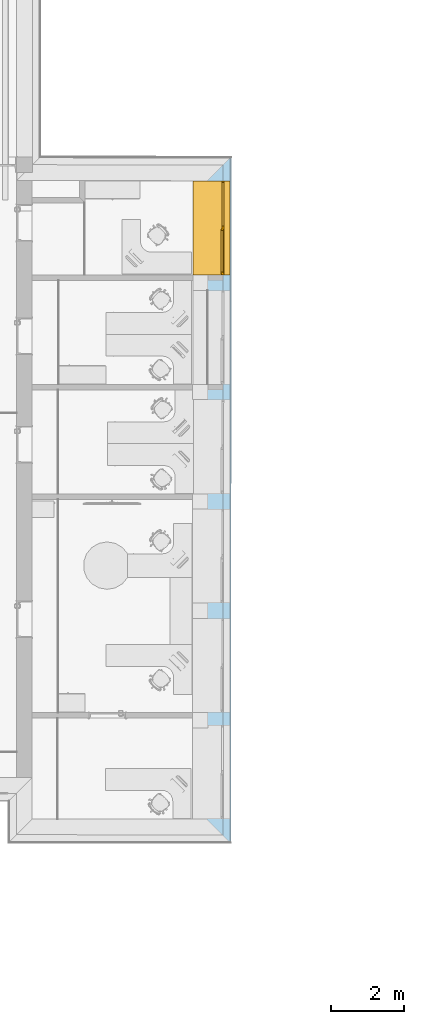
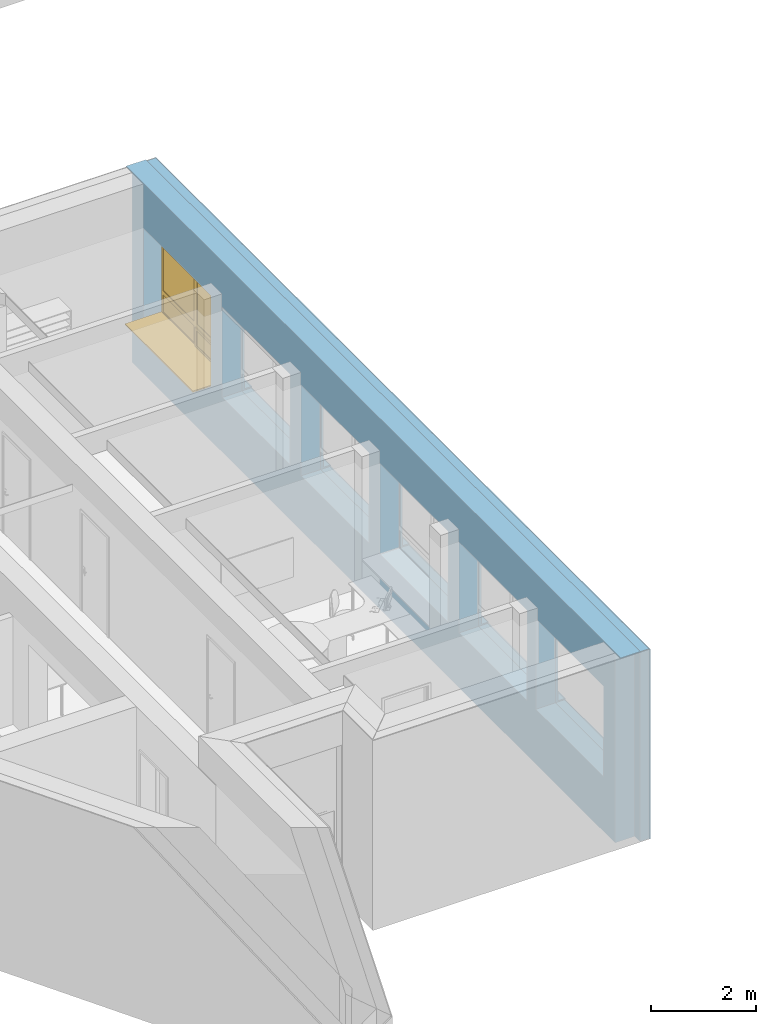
# One storey, part 81 of 194: 1 window, 6 openings, 1 element without a shape of its own, plus 3 elements that do not belong to this part.
"""IFC2X3 building model written with IfcOpenShell, lengths in millimetres."""

from ifc_helpers import new_model, entity, si_unit, converted_unit, derived_unit, money_unit, direction, frame, origin_with_axes, origin_2d_with_axis, place, context, subcontext, project, spatial, polyline, rectangle, outline, extrude, boolean, open_shell, faceted_brep, surface_model, material, type_object, element, fill, aggregate, save


model = new_model("IFC2X3")

# Units and contexts
model_context = context("Model", 3, precision=1e-05, world=origin_with_axes(), true_north=direction((0.0, 1.0)))
body_context = subcontext(model_context, "Body", "Model", "MODEL_VIEW")
ifc_project = project(units=[si_unit("LENGTHUNIT", "METRE", prefix="MILLI"), si_unit("AREAUNIT", "SQUARE_METRE"), si_unit("VOLUMEUNIT", "CUBIC_METRE"), converted_unit("PLANEANGLEUNIT", "DEGREE", entity("IfcPlaneAngleMeasure", 0.0174532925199), si_unit("PLANEANGLEUNIT", "RADIAN"), dimensions=[0, 0, 0, 0, 0, 0, 0]), si_unit("SOLIDANGLEUNIT", "STERADIAN"), money_unit("EUR"), converted_unit("TIMEUNIT", "Year", entity("IfcTimeMeasure", 31556926.0), si_unit("TIMEUNIT", "SECOND"), dimensions=[0, 0, 1, 0, 0, 0, 0]), si_unit("MASSUNIT", "GRAM", prefix="KILO"), si_unit("THERMODYNAMICTEMPERATUREUNIT", "DEGREE_CELSIUS"), si_unit("LUMINOUSINTENSITYUNIT", "LUMEN"), si_unit("ENERGYUNIT", "JOULE", prefix="MEGA"), derived_unit("THERMALCONDUCTANCEUNIT", [(si_unit("POWERUNIT", "WATT"), 1), (si_unit("LENGTHUNIT", "METRE"), -1), (si_unit("THERMODYNAMICTEMPERATUREUNIT", "KELVIN"), -1)]), derived_unit("SPECIFICHEATCAPACITYUNIT", [(si_unit("ENERGYUNIT", "JOULE"), 1), (si_unit("MASSUNIT", "GRAM", prefix="KILO"), -1), (si_unit("THERMODYNAMICTEMPERATUREUNIT", "KELVIN"), -1)]), derived_unit("MASSDENSITYUNIT", [(si_unit("MASSUNIT", "GRAM", prefix="KILO"), 1), (si_unit("VOLUMEUNIT", "CUBIC_METRE"), -1)])], contexts=[model_context])

# Site, building, storey
site_placement = place(None, origin_with_axes())
site = spatial("IfcSite", under=ifc_project, at=site_placement, Name="Site", CompositionType="ELEMENT")
building_placement = place(site_placement, origin_with_axes())
building = spatial("IfcBuilding", under=site, at=building_placement, Name="Building", CompositionType="ELEMENT")
storey_placement = place(building_placement, frame((0.0, 0.0, 3000.0), z_axis=(0.0, 0.0, 1.0), x_axis=(1.0, 0.0, 0.0)))
storey = spatial("IfcBuildingStorey", under=building, at=storey_placement, Name="2 KORRUS", CompositionType="ELEMENT", Elevation=3000.0)

# Window
window_style = type_object("IfcWindowStyle", Name="A2   2\xa0580×2\xa0100", ConstructionType="NOTDEFINED", OperationType="USERDEFINED", ParameterTakesPrecedence=False, Sizeable=False)
wall_placement = place(storey_placement, frame((45388.6906963, 4389.96789684, -420.0), z_axis=(0.0, 0.0, 1.0), x_axis=(0.000555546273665, 0.999999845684, 0.0)))
opening_5_placement = place(wall_placement, frame((16639.9800092, 0.0, 1270.0), z_axis=(0.0, 0.0, 1.0), x_axis=(1.0, 0.0, 0.0)))
window_placement = place(opening_5_placement, frame((-1290.0, 0.0, 0.0), z_axis=(0.0, 0.0, 1.0), x_axis=(1.0, 0.0, 0.0)))
window = element("IfcWindow", 1, at=window_placement, inside=storey, type_object=window_style, Name="välisaken * Double Window 22", OverallHeight=2100.0, OverallWidth=2580.0, context=body_context, shape_type="SurfaceModel", body=[
    faceted_brep([(0.0, -20.0, 30.0), (0.0, -20.0, 5.0), (0.0, -220.0, 5.0), (0.0, -220.0, 19.5184441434), (2580.0, -20.0000000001, 30.0), (2580.0, -20.0000000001, 5.0), (2580.0, -220.0, 5.0), (2580.0, -220.0, 19.5184441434)], [[[0, 1, 2, 3]], [[4, 5, 1, 0]], [[2, 1, 5, 6]], [[3, 2, 6, 7]], [[4, 0, 3, 7]], [[7, 6, 5, 4]]]),
    faceted_brep([(0.0, -20.0, 0.0), (0.0, -220.0, 0.0), (0.0, -220.0, 5.0), (0.0, -20.0, 5.0), (2580.0, -20.0000000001, 0.0), (2580.0, -220.0, 0.0), (2580.0, -220.0, 5.0), (2580.0, -20.0000000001, 5.0)], [[[0, 1, 2, 3]], [[0, 4, 5, 1]], [[1, 5, 6, 2]], [[3, 2, 6, 7]], [[4, 0, 3, 7]], [[5, 4, 7, 6]]]),
    faceted_brep([(2580.0, 29.9999999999, 0.0), (2580.0, 430.0, 0.0), (2580.0, 430.0, 30.0), (2580.0, 29.9999999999, 30.0), (0.0, 30.0, 0.0), (0.0, 430.0, 0.0), (-9.09494701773e-10, 830.0, 0.0), (2580.0, 830.0, 0.0), (2580.0, 830.0, 30.0), (-9.09494701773e-10, 830.0, 30.0), (0.0, 430.0, 30.0), (0.0, 30.0, 30.0)], [[[0, 1, 2, 3]], [[0, 4, 5, 6, 7, 1]], [[1, 7, 8, 2]], [[3, 2, 8, 9, 10, 11]], [[4, 0, 3, 11]], [[5, 4, 11, 10]], [[6, 5, 10, 9]], [[7, 6, 9, 8]]]),
    faceted_brep([(25.0000000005, 30.0, 50.0), (0.0, 30.0, 50.0), (0.0, 30.0, 2050.0), (49.9999999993, 30.0, 2050.0), (49.9999999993, 30.0, 550.0), (49.9999999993, 30.0, 475.0), (25.0000000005, 30.0, 475.0), (24.9999999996, 4.99999999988, 50.0), (49.9999999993, 5.0, 50.0), (50.0000000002, -20.0000000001, 50.0), (0.0, -20.0, 50.0), (0.0, -20.0, 2050.0), (50.0000000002, -20.0000000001, 2050.0), (50.0000000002, -20.0000000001, 550.0), (49.9999999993, 5.0, 475.0), (50.0000000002, -20.0000000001, 450.0), (49.9999999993, 5.0, 450.0), (24.9999999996, 4.99999999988, 475.0)], [[[0, 1, 2, 3, 4, 5, 6]], [[7, 8, 9, 10, 1, 0]], [[2, 1, 10, 11]], [[3, 2, 11, 12]], [[4, 3, 12, 13]], [[14, 5, 4, 13, 15, 16]], [[14, 17, 6, 5]], [[6, 17, 7, 0]], [[16, 8, 7, 17, 14]], [[16, 15, 9, 8]], [[13, 12, 11, 10, 9, 15]]]),
    faceted_brep([(1265.0, 30.0, 475.0), (1240.0, 30.0, 475.0), (1240.0, 30.0, 550.0), (1240.0, 30.0, 2050.0), (1340.0, 29.9999999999, 2050.0), (1340.0, 29.9999999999, 550.0), (1340.0, 29.9999999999, 450.0), (1340.0, 29.9999999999, 50.0), (1265.0, 30.0, 50.0), (1265.0, 5.0, 475.0), (1240.0, 4.99999999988, 475.0), (1240.0, 4.99999999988, 450.0), (1240.0, -20.0000000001, 450.0), (1240.0, -20.0000000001, 550.0), (1240.0, -20.0000000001, 2050.0), (1340.0, -20.0000000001, 2050.0), (1340.0, -20.0000000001, 550.0), (1340.0, -20.0000000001, 450.0), (1340.0, -20.0000000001, 50.0), (1265.0, 5.0, 50.0), (1240.0, -20.0000000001, 50.0), (1240.0, 4.99999999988, 50.0)], [[[0, 1, 2, 3, 4, 5, 6, 7, 8]], [[0, 9, 10, 1]], [[10, 11, 12, 13, 2, 1]], [[3, 2, 13, 14]], [[4, 3, 14, 15]], [[5, 4, 15, 16]], [[6, 5, 16, 17]], [[7, 6, 17, 18]], [[19, 8, 7, 18, 20, 21]], [[8, 19, 9, 0]], [[21, 11, 10, 9, 19]], [[21, 20, 12, 11]], [[12, 20, 18, 17, 16, 15, 14, 13]]]),
    faceted_brep([(49.9999999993, 30.0, 475.0), (49.9999999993, 30.0, 550.0), (1240.0, 30.0, 550.0), (1240.0, 30.0, 475.0), (49.9999999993, 5.0, 475.0), (49.9999999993, 5.0, 450.0), (50.0000000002, -20.0000000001, 450.0), (50.0000000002, -20.0000000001, 550.0), (1240.0, -20.0000000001, 550.0), (1240.0, 4.99999999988, 475.0), (1240.0, -20.0000000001, 450.0), (1240.0, 4.99999999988, 450.0)], [[[0, 1, 2, 3]], [[4, 5, 6, 7, 1, 0]], [[2, 1, 7, 8]], [[9, 3, 2, 8, 10, 11]], [[9, 4, 0, 3]], [[11, 5, 4, 9]], [[11, 10, 6, 5]], [[8, 7, 6, 10]]]),
    faceted_brep([(1240.0, 4.99999999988, 50.0), (1240.0, -20.0000000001, 50.0), (1340.0, -20.0000000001, 50.0), (1340.0, 29.9999999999, 50.0), (1265.0, 30.0, 50.0), (1265.0, 5.0, 50.0), (49.9999999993, 5.0, 50.0), (50.0000000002, -20.0000000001, 50.0), (0.0, -20.0, 50.0), (0.0, -20.0, 0.0), (2580.0, -20.0000000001, 0.0), (2580.0, -20.0000000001, 50.0), (2530.0, -20.0000000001, 50.0), (2530.0, 30.0, 50.0), (25.0000000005, 30.0, 25.0), (1265.0, 30.0, 25.0), (2580.0, 29.9999999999, 50.0), (2580.0, 29.9999999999, 0.0), (0.0, 30.0, 0.0), (0.0, 30.0, 50.0), (25.0000000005, 30.0, 50.0), (1265.0, 5.0, 25.0), (24.9999999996, 4.99999999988, 25.0), (24.9999999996, 4.99999999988, 50.0)], [[[0, 1, 2, 3, 4, 5]], [[6, 7, 1, 0]], [[8, 9, 10, 11, 12, 2, 1, 7]], [[13, 3, 2, 12]], [[14, 15, 4, 3, 13, 16, 17, 18, 19, 20]], [[15, 21, 5, 4]], [[5, 21, 22, 23, 6, 0]], [[23, 20, 19, 8, 7, 6]], [[19, 18, 9, 8]], [[18, 17, 10, 9]], [[17, 16, 11, 10]], [[16, 13, 12, 11]], [[14, 22, 21, 15]], [[23, 22, 14, 20]]]),
    faceted_brep([(2530.0, -20.0000000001, 50.0), (2530.0, 30.0, 50.0), (2580.0, 29.9999999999, 50.0), (2580.0, -20.0000000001, 50.0), (2530.0, -20.0000000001, 450.0), (2530.0, 30.0, 450.0), (2530.0, 30.0, 550.0), (2530.0, 30.0, 2050.0), (2580.0, 29.9999999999, 2050.0), (2580.0, -20.0000000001, 2050.0), (2530.0, -20.0000000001, 2050.0), (2530.0, -20.0000000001, 550.0)], [[[0, 1, 2, 3]], [[4, 5, 1, 0]], [[1, 5, 6, 7, 8, 2]], [[3, 2, 8, 9]], [[0, 3, 9, 10, 11, 4]], [[11, 6, 5, 4]], [[10, 7, 6, 11]], [[9, 8, 7, 10]]]),
    faceted_brep([(1340.0, -20.0000000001, 550.0), (1340.0, 29.9999999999, 550.0), (1340.0, 29.9999999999, 450.0), (1340.0, -20.0000000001, 450.0), (2530.0, -20.0000000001, 550.0), (2530.0, 30.0, 550.0), (2530.0, 30.0, 450.0), (2530.0, -20.0000000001, 450.0)], [[[0, 1, 2, 3]], [[4, 5, 1, 0]], [[1, 5, 6, 2]], [[3, 2, 6, 7]], [[0, 3, 7, 4]], [[7, 6, 5, 4]]]),
    faceted_brep([(1240.0, -20.0000000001, 2050.0), (1240.0, 30.0, 2050.0), (1340.0, 29.9999999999, 2050.0), (1340.0, -20.0000000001, 2050.0), (50.0000000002, -20.0000000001, 2050.0), (49.9999999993, 30.0, 2050.0), (0.0, 30.0, 2050.0), (0.0, 30.0, 2100.0), (2580.0, 29.9999999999, 2100.0), (2580.0, 29.9999999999, 2050.0), (2530.0, 30.0, 2050.0), (2530.0, -20.0000000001, 2050.0), (2580.0, -20.0000000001, 2050.0), (2580.0, -20.0000000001, 2100.0), (0.0, -20.0, 2100.0), (0.0, -20.0, 2050.0)], [[[0, 1, 2, 3]], [[4, 5, 1, 0]], [[1, 5, 6, 7, 8, 9, 10, 2]], [[3, 2, 10, 11]], [[0, 3, 11, 12, 13, 14, 15, 4]], [[15, 6, 5, 4]], [[14, 7, 6, 15]], [[13, 8, 7, 14]], [[12, 9, 8, 13]], [[11, 10, 9, 12]]]),
    surface_model("IfcShellBasedSurfaceModel", [(50.0000000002, -5.0, 550.0), (1240.0, -5.00000000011, 550.0), (1240.0, -5.00000000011, 2050.0), (50.0000000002, -5.0, 2050.0)], [open_shell([[[0, 1, 2, 3]]])]),
    surface_model("IfcShellBasedSurfaceModel", [(49.9999999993, 14.9999999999, 550.0), (49.9999999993, 14.9999999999, 2050.0), (1240.0, 14.9999999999, 2050.0), (1240.0, 14.9999999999, 550.0)], [open_shell([[[0, 1, 2, 3]]])]),
    surface_model("IfcShellBasedSurfaceModel", [(1340.0, -5.00000000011, 550.0), (2530.0, -5.00000000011, 550.0), (2530.0, -5.00000000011, 2050.0), (1340.0, -5.00000000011, 2050.0)], [open_shell([[[0, 1, 2, 3]]])]),
    surface_model("IfcShellBasedSurfaceModel", [(1340.0, 14.9999999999, 550.0), (1340.0, 14.9999999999, 2050.0), (2530.0, 14.9999999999, 2050.0), (2530.0, 14.9999999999, 550.0)], [open_shell([[[0, 1, 2, 3]]])]),
    faceted_brep([(74.9999999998, 4.99999999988, 425.0), (74.9999999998, 54.9999999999, 425.0), (24.9999999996, 54.9999999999, 425.0), (24.9999999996, 4.99999999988, 425.0), (74.9999999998, 4.99999999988, 75.0), (74.9999999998, 54.9999999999, 75.0), (24.9999999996, 54.9999999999, 75.0), (24.9999999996, 4.99999999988, 75.0)], [[[0, 1, 2, 3]], [[4, 5, 1, 0]], [[1, 5, 6, 2]], [[3, 2, 6, 7]], [[0, 3, 7, 4]], [[7, 6, 5, 4]]]),
    faceted_brep([(1215.0, 4.99999999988, 75.0), (1215.0, 54.9999999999, 75.0), (1265.0, 54.9999999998, 75.0), (1265.0, 5.0, 75.0), (1215.0, 4.99999999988, 425.0), (1215.0, 54.9999999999, 425.0), (1265.0, 54.9999999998, 425.0), (1265.0, 5.0, 425.0)], [[[0, 1, 2, 3]], [[4, 5, 1, 0]], [[1, 5, 6, 2]], [[3, 2, 6, 7]], [[0, 3, 7, 4]], [[7, 6, 5, 4]]]),
    faceted_brep([(1265.0, 5.0, 25.0), (1265.0, 54.9999999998, 25.0), (1265.0, 54.9999999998, 75.0), (1265.0, 5.0, 75.0), (24.9999999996, 4.99999999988, 25.0), (24.9999999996, 54.9999999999, 25.0), (24.9999999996, 54.9999999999, 75.0), (74.9999999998, 54.9999999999, 75.0), (1215.0, 54.9999999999, 75.0), (1215.0, 4.99999999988, 75.0), (74.9999999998, 4.99999999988, 75.0), (24.9999999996, 4.99999999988, 75.0)], [[[0, 1, 2, 3]], [[4, 5, 1, 0]], [[1, 5, 6, 7, 8, 2]], [[3, 2, 8, 9]], [[0, 3, 9, 10, 11, 4]], [[11, 6, 5, 4]], [[10, 7, 6, 11]], [[9, 8, 7, 10]]]),
    faceted_brep([(24.9999999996, 4.99999999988, 475.0), (24.9999999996, 54.9999999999, 475.0), (24.9999999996, 54.9999999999, 425.0), (24.9999999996, 4.99999999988, 425.0), (1265.0, 5.0, 475.0), (1265.0, 54.9999999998, 475.0), (1265.0, 54.9999999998, 425.0), (1215.0, 54.9999999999, 425.0), (74.9999999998, 54.9999999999, 425.0), (74.9999999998, 4.99999999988, 425.0), (1215.0, 4.99999999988, 425.0), (1265.0, 5.0, 425.0)], [[[0, 1, 2, 3]], [[4, 5, 1, 0]], [[1, 5, 6, 7, 8, 2]], [[3, 2, 8, 9]], [[0, 3, 9, 10, 11, 4]], [[11, 6, 5, 4]], [[10, 7, 6, 11]], [[9, 8, 7, 10]]]),
    surface_model("IfcShellBasedSurfaceModel", [(74.9999999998, 20.0, 75.0), (1215.0, 20.0, 75.0), (1215.0, 20.0, 425.0), (74.9999999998, 20.0, 425.0)], [open_shell([[[0, 1, 2, 3]]])]),
    surface_model("IfcShellBasedSurfaceModel", [(74.9999999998, 40.0, 75.0), (74.9999999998, 40.0, 425.0), (1215.0, 40.0, 425.0), (1215.0, 40.0, 75.0)], [open_shell([[[0, 1, 2, 3]]])]),
    surface_model("IfcShellBasedSurfaceModel", [(1340.0, -5.00000000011, 50.0), (2530.0, -5.00000000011, 50.0), (2530.0, -5.00000000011, 450.0), (1340.0, -5.00000000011, 450.0)], [open_shell([[[0, 1, 2, 3]]])]),
    surface_model("IfcShellBasedSurfaceModel", [(1340.0, 14.9999999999, 50.0), (1340.0, 14.9999999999, 450.0), (2530.0, 14.9999999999, 450.0), (2530.0, 14.9999999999, 50.0)], [open_shell([[[0, 1, 2, 3]]])]),
])

# Wall, openings
wall_type = type_object("IfcWallType", Name="VS4", PredefinedType="NOTDEFINED")
wall = element("IfcWall", 2, at=wall_placement, inside=storey, type_object=wall_type, Name="VS4")
opening_1_placement = place(wall_placement, frame((1719.99240846, 0.0, 1270.0), z_axis=(0.0, 0.0, 1.0), x_axis=(1.0, 0.0, 0.0)))
element("IfcOpeningElement", 3, at=opening_1_placement, cuts=wall, Name="välisaken * Double Window 22", context=body_context, shape_type="SweptSolid", body=[
    extrude(rectangle(XDim=2580.0, YDim=2100.0, at=origin_2d_with_axis()), frame((9.09494701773e-10, -20.0, 1050.0), z_axis=(0.0, -1.0, 0.0), x_axis=(1.0, 0.0, 0.0)), (0.0, 0.0, -1.0), 1100.0),
    extrude(rectangle(XDim=2580.0, YDim=2100.0, at=origin_2d_with_axis()), frame((9.09494701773e-10, -20.0000000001, 1050.0), z_axis=(0.0, 1.0, 0.0), x_axis=(1.0, 0.0, 0.0)), (0.0, 0.0, -1.0), 850.0),
])
opening_2_placement = place(wall_placement, frame((7639.96095485, 0.0, 1270.0), z_axis=(0.0, 0.0, 1.0), x_axis=(1.0, 0.0, 0.0)))
element("IfcOpeningElement", 4, at=opening_2_placement, cuts=wall, Name="välisaken * Double Window 22", context=body_context, shape_type="SweptSolid", body=[
    extrude(rectangle(XDim=2580.0, YDim=2100.0, at=origin_2d_with_axis()), frame((9.09494701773e-10, -19.9999999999, 1050.0), z_axis=(0.0, -1.0, 0.0), x_axis=(1.0, 0.0, 0.0)), (0.0, 0.0, -1.0), 1100.0),
    extrude(rectangle(XDim=2580.0, YDim=2100.0, at=origin_2d_with_axis()), frame((9.09494701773e-10, -20.0, 1050.0), z_axis=(0.0, 1.0, 0.0), x_axis=(1.0, 0.0, 0.0)), (0.0, 0.0, -1.0), 850.0),
])
opening_3_placement = place(wall_placement, frame((10639.9002006, -1.13686837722e-10, 1270.0), z_axis=(0.0, 0.0, 1.0), x_axis=(1.0, 0.0, 0.0)))
element("IfcOpeningElement", 5, at=opening_3_placement, cuts=wall, Name="välisaken * Double Window 22", context=body_context, shape_type="SweptSolid", body=[
    extrude(rectangle(XDim=2580.0, YDim=2100.0, at=origin_2d_with_axis()), frame((9.09494701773e-10, -19.9999999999, 1050.0), z_axis=(0.0, -1.0, 0.0), x_axis=(1.0, 0.0, 0.0)), (0.0, 0.0, -1.0), 1100.0),
    extrude(rectangle(XDim=2580.0, YDim=2100.0, at=origin_2d_with_axis()), frame((0.0, -20.0, 1050.0), z_axis=(0.0, 1.0, 0.0), x_axis=(1.0, 0.0, 0.0)), (0.0, 0.0, -1.0), 850.0),
])
opening_4_placement = place(wall_placement, frame((13639.8047206, -1.13686837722e-10, 1270.0), z_axis=(0.0, 0.0, 1.0), x_axis=(1.0, 0.0, 0.0)))
element("IfcOpeningElement", 6, at=opening_4_placement, cuts=wall, Name="välisaken * Double Window 22", context=body_context, shape_type="SweptSolid", body=[
    extrude(rectangle(XDim=2580.0, YDim=2100.0, at=origin_2d_with_axis()), frame((9.09494701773e-10, -19.9999999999, 1050.0), z_axis=(0.0, -1.0, 0.0), x_axis=(1.0, 0.0, 0.0)), (0.0, 0.0, -1.0), 1100.0),
    extrude(rectangle(XDim=2580.0, YDim=2100.0, at=origin_2d_with_axis()), frame((1.81898940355e-09, -20.0, 1050.0), z_axis=(0.0, 1.0, 0.0), x_axis=(1.0, 0.0, 0.0)), (0.0, 0.0, -1.0), 850.0),
])
opening_5 = element("IfcOpeningElement", 7, at=opening_5_placement, cuts=wall, Name="välisaken * Double Window 22", context=body_context, shape_type="SweptSolid", body=[
    extrude(rectangle(XDim=2580.0, YDim=2100.0, at=origin_2d_with_axis()), frame((0.0, -20.0000000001, 1050.0), z_axis=(0.0, -1.0, 0.0), x_axis=(1.0, 0.0, 0.0)), (0.0, 0.0, -1.0), 1100.0),
    extrude(rectangle(XDim=2580.0, YDim=2100.0, at=origin_2d_with_axis()), frame((0.0, -20.0000000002, 1050.0), z_axis=(0.0, 1.0, 0.0), x_axis=(1.0, 0.0, 0.0)), (0.0, 0.0, -1.0), 850.0),
])

fill(opening_5, window)

# Opening
opening_6_placement = place(wall_placement, frame((4639.9161327, 0.0, 1270.0), z_axis=(0.0, 0.0, 1.0), x_axis=(1.0, 0.0, 0.0)))
element("IfcOpeningElement", 8, at=opening_6_placement, cuts=wall, Name="välisaken * Double Window 22", context=body_context, shape_type="SweptSolid", body=[
    extrude(rectangle(XDim=2580.0, YDim=2100.0, at=origin_2d_with_axis()), frame((9.09494701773e-10, -20.0, 1050.0), z_axis=(0.0, -1.0, 0.0), x_axis=(1.0, 0.0, 0.0)), (0.0, 0.0, -1.0), 1100.0),
    extrude(rectangle(XDim=2580.0, YDim=2100.0, at=origin_2d_with_axis()), frame((9.09494701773e-10, -20.0000000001, 1050.0), z_axis=(0.0, 1.0, 0.0), x_axis=(1.0, 0.0, 0.0)), (0.0, 0.0, -1.0), 850.0),
])

# Building element part
ifc_material_1 = material(Name="Tellis - Konstuktsioon")
building_element_part_1_placement = place(wall_placement, origin_with_axes())
building_element_part_1 = element("IfcBuildingElementPart", 9, at=building_element_part_1_placement, material=ifc_material_1, Name="Tellis - Konstuktsioon", context=body_context, shape_type="CSG", body=[
    boolean("DIFFERENCE", boolean("DIFFERENCE", boolean("DIFFERENCE", boolean("DIFFERENCE", boolean("DIFFERENCE", boolean("DIFFERENCE", extrude(outline(polyline([(-220.007591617, 0.0), (18579.9522338, 0.0), (18579.9522338, 430.0), (-220.007591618, 430.0), (-220.007591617, 0.0)])), origin_with_axes(), (0.0, 0.0, 1.0), 4420.0), faceted_brep([(0.0, 0.0, 4400.0), (-220.000000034, -1.13686837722e-10, 4400.0), (-220.007591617, 0.0, 0.0), (0.0, 1.13686837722e-10, 0.0), (-0.00759158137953, 430.0, 4400.0), (-220.007591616, 430.0, 4400.0), (-220.007591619, 430.0, 0.0), (-0.00759158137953, 430.0, 0.0)], [[[0, 1, 2, 3]], [[1, 0, 4, 5]], [[1, 5, 6, 2]], [[7, 3, 2, 6]], [[0, 3, 7, 4]], [[4, 7, 6, 5]]])), faceted_brep([(18579.9522338, 430.0, 4420.0), (18579.0005259, 0.0, 4420.0), (18579.9522338, 0.0, 4420.0), (18579.0005263, -9.09494701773e-10, 4400.0), (18579.9522348, 429.999999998, 4400.0), (18358.9999871, -2.27373675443e-10, 4400.0), (18358.9999871, -1.13686837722e-10, 0.0), (18579.9522338, 0.0, 0.0), (18579.9522338, 430.0, 0.0), (18359.951695, 430.0, 4400.0), (18359.951695, 430.0, 0.0)], [[[0, 1, 2]], [[3, 1, 0, 4]], [[5, 6, 7, 2, 1, 3]], [[4, 0, 2, 7, 8]], [[5, 3, 4, 9]], [[6, 5, 9, 10]], [[6, 10, 8, 7]], [[9, 4, 8, 10]]])), faceted_brep([(0.111082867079, -200.0, 1300.0), (18196.9295608, -200.0, 1300.0), (18196.9295608, -200.0, 3400.0), (0.111082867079, -200.0, 3400.0), (0.0345998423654, -62.3282756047, 1300.0), (18196.8474617, -52.2191024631, 1300.0), (18196.8474617, -52.2191024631, 3400.0), (0.0345998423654, -62.3282756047, 3400.0)], [[[0, 1, 2, 3]], [[1, 0, 4, 5]], [[2, 1, 5, 6]], [[3, 2, 6, 7]], [[0, 3, 7, 4]], [[5, 4, 7, 6]]])), faceted_brep([(-199.996469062, -200.0, 0.0), (-199.996469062, -200.0, 4400.0), (18558.5578221, -200.0, 4400.0), (18558.5578221, -200.0, 0.0), (18579.9522338, -200.0, 0.0), (18579.9522338, -200.0, 4420.0), (-220.007591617, -200.0, 4420.0), (-220.007591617, -200.0, 0.0), (-200.000000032, 0.0, 0.0), (-200.000000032, -1.13686837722e-10, 4400.0), (18358.9999871, -2.27373675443e-10, 4400.0), (18559.0004769, 0.0, 4400.0), (18559.0004769, 0.0, 0.0), (18579.9522338, 0.0, 0.0), (18579.9522338, 0.0, 4420.0), (-220.007591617, 0.0, 4420.0), (-220.007591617, 0.0, 0.0)], [[[0, 1, 2, 3, 4, 5, 6, 7]], [[1, 0, 8, 9]], [[10, 11, 2, 1, 9]], [[3, 2, 11, 12]], [[3, 12, 13, 4]], [[5, 4, 13, 14]], [[15, 6, 5, 14]], [[15, 16, 7, 6]], [[8, 0, 7, 16]], [[9, 8, 16, 15, 14, 13, 12, 11, 10]]])), faceted_brep([(0.111082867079, -200.0, 1300.0), (0.111082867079, -200.0, 3400.0), (18196.9295608, -200.0, 3400.0), (18196.9295608, -200.0, 1300.0), (0.122193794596, -220.0, 1300.0), (0.122193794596, -220.0, 3400.0), (18196.9406717, -220.0, 3400.0), (18196.9406717, -220.0, 1300.0)], [[[0, 1, 2, 3]], [[4, 5, 1, 0]], [[5, 6, 2, 1]], [[6, 7, 3, 2]], [[7, 4, 0, 3]], [[4, 7, 6, 5]]])), faceted_brep([(-219.996115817, -220.0, 4400.0), (18558.5135566, -220.0, 4400.0), (18578.5136056, -220.0, 4400.0), (18578.5136056, -220.0, 0.0), (18579.9522338, -220.0, 0.0), (18579.9522338, -220.0, 4420.0), (-220.007591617, -220.0, 4420.0), (-220.007591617, -220.0, 0.0), (-219.996115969, -220.0, 0.0), (-219.996468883, -200.0, 4400.0), (18558.5578221, -200.0, 4400.0), (18578.5578711, -200.0, 4400.0), (18578.5578711, -200.0, 0.0), (18579.9522338, -200.0, 0.0), (18579.9522338, -200.0, 4420.0), (-220.007591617, -200.0, 4420.0), (-220.007591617, -200.0, 0.0), (-219.996469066, -200.0, 0.0)], [[[0, 1, 2, 3, 4, 5, 6, 7, 8]], [[2, 1, 0, 9, 10, 11]], [[3, 2, 11, 12]], [[3, 12, 13, 4]], [[5, 4, 13, 14]], [[15, 6, 5, 14]], [[15, 16, 7, 6]], [[17, 8, 7, 16]], [[0, 8, 17, 9]], [[9, 17, 16, 15, 14, 13, 12, 11, 10]]])),
])

ifc_material_2 = material(Name="Soojustus - Plastik Kõva")
building_element_part_2_placement = place(wall_placement, origin_with_axes())
building_element_part_2 = element("IfcBuildingElementPart", 10, at=building_element_part_2_placement, material=ifc_material_2, Name="Soojustus - Plastik Kõva", context=body_context, shape_type="CSG", body=[
    boolean("DIFFERENCE", boolean("DIFFERENCE", boolean("DIFFERENCE", boolean("DIFFERENCE", boolean("DIFFERENCE", boolean("DIFFERENCE", extrude(outline(polyline([(-220.007591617, -200.0), (18579.9522338, -200.0), (18579.9522338, 0.0), (-220.007591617, 0.0), (-220.007591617, -200.0)])), origin_with_axes(), (0.0, 0.0, 1.0), 4420.0), faceted_brep([(0.0, 0.0, 4400.0), (-220.000000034, -1.13686837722e-10, 4400.0), (-220.007591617, 0.0, 0.0), (0.0, 1.13686837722e-10, 0.0), (-0.00759158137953, 430.0, 4400.0), (-220.007591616, 430.0, 4400.0), (-220.007591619, 430.0, 0.0), (-0.00759158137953, 430.0, 0.0)], [[[0, 1, 2, 3]], [[1, 0, 4, 5]], [[1, 5, 6, 2]], [[7, 3, 2, 6]], [[0, 3, 7, 4]], [[4, 7, 6, 5]]])), faceted_brep([(18579.9522338, 430.0, 4420.0), (18579.0005259, 0.0, 4420.0), (18579.9522338, 0.0, 4420.0), (18579.0005263, -9.09494701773e-10, 4400.0), (18579.9522348, 429.999999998, 4400.0), (18358.9999871, -2.27373675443e-10, 4400.0), (18358.9999871, -1.13686837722e-10, 0.0), (18579.9522338, 0.0, 0.0), (18579.9522338, 430.0, 0.0), (18359.951695, 430.0, 4400.0), (18359.951695, 430.0, 0.0)], [[[0, 1, 2]], [[3, 1, 0, 4]], [[5, 6, 7, 2, 1, 3]], [[4, 0, 2, 7, 8]], [[5, 3, 4, 9]], [[6, 5, 9, 10]], [[6, 10, 8, 7]], [[9, 4, 8, 10]]])), faceted_brep([(0.111082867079, -200.0, 1300.0), (18196.9295608, -200.0, 1300.0), (18196.9295608, -200.0, 3400.0), (0.111082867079, -200.0, 3400.0), (0.0345998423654, -62.3282756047, 1300.0), (18196.8474617, -52.2191024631, 1300.0), (18196.8474617, -52.2191024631, 3400.0), (0.0345998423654, -62.3282756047, 3400.0)], [[[0, 1, 2, 3]], [[1, 0, 4, 5]], [[2, 1, 5, 6]], [[3, 2, 6, 7]], [[0, 3, 7, 4]], [[5, 4, 7, 6]]])), faceted_brep([(-199.996469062, -200.0, 0.0), (-199.996469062, -200.0, 4400.0), (18558.5578221, -200.0, 4400.0), (18558.5578221, -200.0, 0.0), (18579.9522338, -200.0, 0.0), (18579.9522338, -200.0, 4420.0), (-220.007591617, -200.0, 4420.0), (-220.007591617, -200.0, 0.0), (-200.000000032, 0.0, 0.0), (-200.000000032, -1.13686837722e-10, 4400.0), (18358.9999871, -2.27373675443e-10, 4400.0), (18559.0004769, 0.0, 4400.0), (18559.0004769, 0.0, 0.0), (18579.9522338, 0.0, 0.0), (18579.9522338, 0.0, 4420.0), (-220.007591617, 0.0, 4420.0), (-220.007591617, 0.0, 0.0)], [[[0, 1, 2, 3, 4, 5, 6, 7]], [[1, 0, 8, 9]], [[10, 11, 2, 1, 9]], [[3, 2, 11, 12]], [[3, 12, 13, 4]], [[5, 4, 13, 14]], [[15, 6, 5, 14]], [[15, 16, 7, 6]], [[8, 0, 7, 16]], [[9, 8, 16, 15, 14, 13, 12, 11, 10]]])), faceted_brep([(0.111082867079, -200.0, 1300.0), (0.111082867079, -200.0, 3400.0), (18196.9295608, -200.0, 3400.0), (18196.9295608, -200.0, 1300.0), (0.122193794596, -220.0, 1300.0), (0.122193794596, -220.0, 3400.0), (18196.9406717, -220.0, 3400.0), (18196.9406717, -220.0, 1300.0)], [[[0, 1, 2, 3]], [[4, 5, 1, 0]], [[5, 6, 2, 1]], [[6, 7, 3, 2]], [[7, 4, 0, 3]], [[4, 7, 6, 5]]])), faceted_brep([(-219.996115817, -220.0, 4400.0), (18558.5135566, -220.0, 4400.0), (18578.5136056, -220.0, 4400.0), (18578.5136056, -220.0, 0.0), (18579.9522338, -220.0, 0.0), (18579.9522338, -220.0, 4420.0), (-220.007591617, -220.0, 4420.0), (-220.007591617, -220.0, 0.0), (-219.996115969, -220.0, 0.0), (-219.996468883, -200.0, 4400.0), (18558.5578221, -200.0, 4400.0), (18578.5578711, -200.0, 4400.0), (18578.5578711, -200.0, 0.0), (18579.9522338, -200.0, 0.0), (18579.9522338, -200.0, 4420.0), (-220.007591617, -200.0, 4420.0), (-220.007591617, -200.0, 0.0), (-219.996469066, -200.0, 0.0)], [[[0, 1, 2, 3, 4, 5, 6, 7, 8]], [[2, 1, 0, 9, 10, 11]], [[3, 2, 11, 12]], [[3, 12, 13, 4]], [[5, 4, 13, 14]], [[15, 6, 5, 14]], [[15, 16, 7, 6]], [[17, 8, 7, 16]], [[0, 8, 17, 9]], [[9, 17, 16, 15, 14, 13, 12, 11, 10]]])),
])

ifc_material_3 = material(Name="Tellis - Viimistlus")
building_element_part_3_placement = place(wall_placement, origin_with_axes())
building_element_part_3 = element("IfcBuildingElementPart", 11, at=building_element_part_3_placement, material=ifc_material_3, Name="Tellis - Viimistlus", context=body_context, shape_type="CSG", body=[
    boolean("DIFFERENCE", boolean("DIFFERENCE", boolean("DIFFERENCE", boolean("DIFFERENCE", boolean("DIFFERENCE", boolean("DIFFERENCE", extrude(outline(polyline([(-220.007591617, -220.0), (18579.9522338, -220.0), (18579.9522338, -200.0), (-220.007591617, -200.0), (-220.007591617, -220.0)])), origin_with_axes(), (0.0, 0.0, 1.0), 4420.0), faceted_brep([(0.0, 0.0, 4400.0), (-220.000000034, -1.13686837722e-10, 4400.0), (-220.007591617, 0.0, 0.0), (0.0, 1.13686837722e-10, 0.0), (-0.00759158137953, 430.0, 4400.0), (-220.007591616, 430.0, 4400.0), (-220.007591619, 430.0, 0.0), (-0.00759158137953, 430.0, 0.0)], [[[0, 1, 2, 3]], [[1, 0, 4, 5]], [[1, 5, 6, 2]], [[7, 3, 2, 6]], [[0, 3, 7, 4]], [[4, 7, 6, 5]]])), faceted_brep([(18579.9522338, 430.0, 4420.0), (18579.0005259, 0.0, 4420.0), (18579.9522338, 0.0, 4420.0), (18579.0005263, -9.09494701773e-10, 4400.0), (18579.9522348, 429.999999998, 4400.0), (18358.9999871, -2.27373675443e-10, 4400.0), (18358.9999871, -1.13686837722e-10, 0.0), (18579.9522338, 0.0, 0.0), (18579.9522338, 430.0, 0.0), (18359.951695, 430.0, 4400.0), (18359.951695, 430.0, 0.0)], [[[0, 1, 2]], [[3, 1, 0, 4]], [[5, 6, 7, 2, 1, 3]], [[4, 0, 2, 7, 8]], [[5, 3, 4, 9]], [[6, 5, 9, 10]], [[6, 10, 8, 7]], [[9, 4, 8, 10]]])), faceted_brep([(0.111082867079, -200.0, 1300.0), (18196.9295608, -200.0, 1300.0), (18196.9295608, -200.0, 3400.0), (0.111082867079, -200.0, 3400.0), (0.0345998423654, -62.3282756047, 1300.0), (18196.8474617, -52.2191024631, 1300.0), (18196.8474617, -52.2191024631, 3400.0), (0.0345998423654, -62.3282756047, 3400.0)], [[[0, 1, 2, 3]], [[1, 0, 4, 5]], [[2, 1, 5, 6]], [[3, 2, 6, 7]], [[0, 3, 7, 4]], [[5, 4, 7, 6]]])), faceted_brep([(-199.996469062, -200.0, 0.0), (-199.996469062, -200.0, 4400.0), (18558.5578221, -200.0, 4400.0), (18558.5578221, -200.0, 0.0), (18579.9522338, -200.0, 0.0), (18579.9522338, -200.0, 4420.0), (-220.007591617, -200.0, 4420.0), (-220.007591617, -200.0, 0.0), (-200.000000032, 0.0, 0.0), (-200.000000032, -1.13686837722e-10, 4400.0), (18358.9999871, -2.27373675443e-10, 4400.0), (18559.0004769, 0.0, 4400.0), (18559.0004769, 0.0, 0.0), (18579.9522338, 0.0, 0.0), (18579.9522338, 0.0, 4420.0), (-220.007591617, 0.0, 4420.0), (-220.007591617, 0.0, 0.0)], [[[0, 1, 2, 3, 4, 5, 6, 7]], [[1, 0, 8, 9]], [[10, 11, 2, 1, 9]], [[3, 2, 11, 12]], [[3, 12, 13, 4]], [[5, 4, 13, 14]], [[15, 6, 5, 14]], [[15, 16, 7, 6]], [[8, 0, 7, 16]], [[9, 8, 16, 15, 14, 13, 12, 11, 10]]])), faceted_brep([(0.111082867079, -200.0, 1300.0), (0.111082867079, -200.0, 3400.0), (18196.9295608, -200.0, 3400.0), (18196.9295608, -200.0, 1300.0), (0.122193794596, -220.0, 1300.0), (0.122193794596, -220.0, 3400.0), (18196.9406717, -220.0, 3400.0), (18196.9406717, -220.0, 1300.0)], [[[0, 1, 2, 3]], [[4, 5, 1, 0]], [[5, 6, 2, 1]], [[6, 7, 3, 2]], [[7, 4, 0, 3]], [[4, 7, 6, 5]]])), faceted_brep([(-219.996115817, -220.0, 4400.0), (18558.5135566, -220.0, 4400.0), (18578.5136056, -220.0, 4400.0), (18578.5136056, -220.0, 0.0), (18579.9522338, -220.0, 0.0), (18579.9522338, -220.0, 4420.0), (-220.007591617, -220.0, 4420.0), (-220.007591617, -220.0, 0.0), (-219.996115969, -220.0, 0.0), (-219.996468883, -200.0, 4400.0), (18558.5578221, -200.0, 4400.0), (18578.5578711, -200.0, 4400.0), (18578.5578711, -200.0, 0.0), (18579.9522338, -200.0, 0.0), (18579.9522338, -200.0, 4420.0), (-220.007591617, -200.0, 4420.0), (-220.007591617, -200.0, 0.0), (-219.996469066, -200.0, 0.0)], [[[0, 1, 2, 3, 4, 5, 6, 7, 8]], [[2, 1, 0, 9, 10, 11]], [[3, 2, 11, 12]], [[3, 12, 13, 4]], [[5, 4, 13, 14]], [[15, 6, 5, 14]], [[15, 16, 7, 6]], [[17, 8, 7, 16]], [[0, 8, 17, 9]], [[9, 17, 16, 15, 14, 13, 12, 11, 10]]])),
])

aggregate(wall, [building_element_part_1, building_element_part_2, building_element_part_3])

save(model, "model.ifc")
